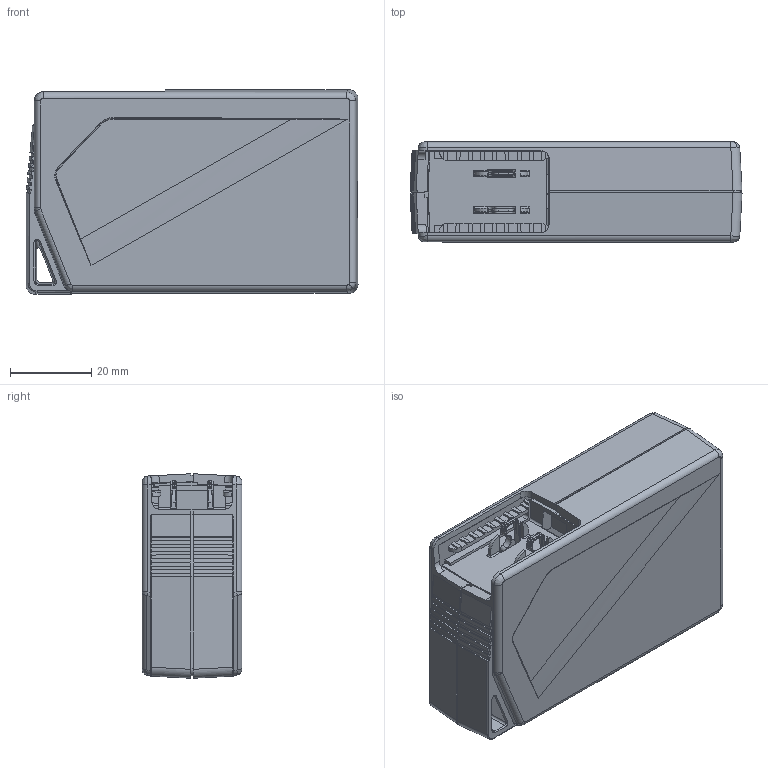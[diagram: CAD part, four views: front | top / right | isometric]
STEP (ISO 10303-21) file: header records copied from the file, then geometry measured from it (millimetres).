
FILE_DESCRIPTION(/* description */ (''),/* implementation_level */ '2;1');
FILE_NAME(/* name */ 'C:\作業區\插頭\FSP065-10AABA_20170209.stp',/* time_stamp */ '2019-11-07T16:34:08+08:00',/* author */ ('user'),/* organization */ (''),/* preprocessor_version */ 'ST-DEVELOPER v16.1',/* originating_system */ 'Autodesk Inventor 2016',/* authorisation */ '');
FILE_SCHEMA (('AUTOMOTIVE_DESIGN { 1 0 10303 214 3 1 1 }'));
Length unit declared in the file: millimetre
Products named in the file (6): TYPE-B-PLUG_HOLDER_ANY_1; NEW_SPRING-2_ANY_1; PLUG_TEAM-CONCEPT_B_ANY_ASM_ASM_1; 65W_BTMCOVER_CC_ANY_2_5; 65W_TOPCOVER_CC_ANY_2_7; FSP065-10AABA_20170209
Assembly tree (6 placements, depth 3):
  FSP065-10AABA_20170209
    PLUG_TEAM-CONCEPT_B_ANY_ASM_ASM_1
      TYPE-B-PLUG_HOLDER_ANY_1
      NEW_SPRING-2_ANY_1  x2
    65W_BTMCOVER_CC_ANY_2_5
    65W_TOPCOVER_CC_ANY_2_7
Bounding box: 81.51 x 24.5 x 50.2 mm (x, y, z)
Volume: 25221.1 mm3; surface area: 29400.2 mm2
Topology: 5 solids, 5 shells, 1041 faces, 2810 edges, 1780 vertices
Faces by surface type: plane 509, cylinder 335, bspline 105, torus 38, cone 33, sphere 21
Entity records: 34871 total; most frequent: CARTESIAN_POINT 12501, ORIENTED_EDGE 4864, DIRECTION 4387, EDGE_CURVE 2432, LINE 1585, VECTOR 1585, VERTEX_POINT 1551, AXIS2_PLACEMENT_3D 1401
